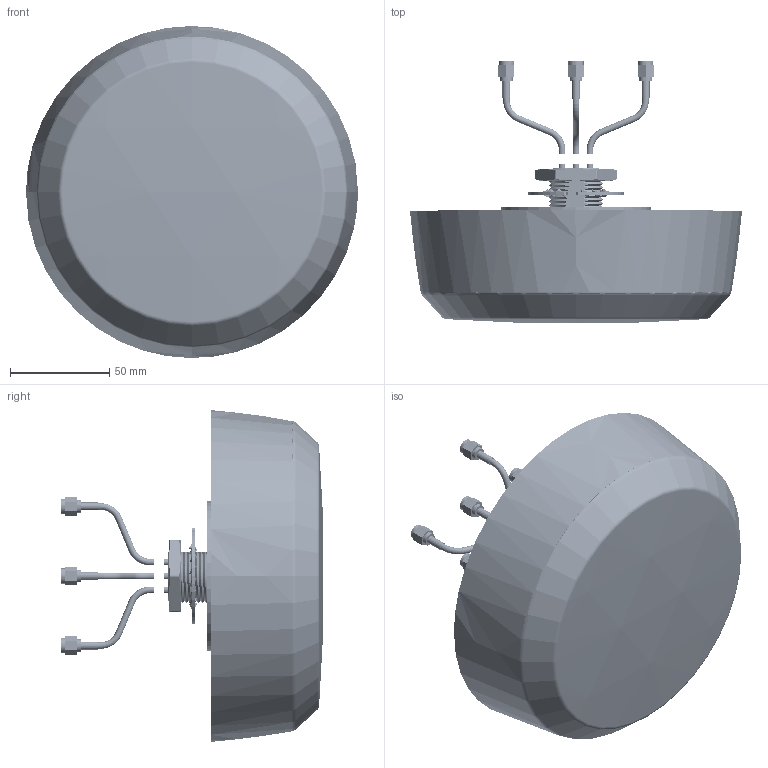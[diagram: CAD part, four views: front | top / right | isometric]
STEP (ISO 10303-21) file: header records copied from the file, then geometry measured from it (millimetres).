
FILE_DESCRIPTION (( 'STEP AP214' ), '1' );
FILE_NAME ('YEMN926J1A-0RELHA1B.STEP', '2024-08-01T08:54:30', ( '' ), ( '' ), 'SwSTEP 2.0', 'SolidWorks 2024', '' );
FILE_SCHEMA (( 'AUTOMOTIVE_DESIGN' ));
Length unit declared in the file: millimetre
Products named in the file (1): YEMN926J1A-0RELHA1B
Bounding box: 167 x 132.17 x 166.99 mm (x, y, z)
Volume: 268642.5 mm3; surface area: 234612.5 mm2
Topology: 35 solids, 45 shells, 4238 faces, 10991 edges, 7018 vertices
Faces by surface type: plane 1284, cone 962, cylinder 748, bspline 728, torus 422, sphere 94
Entity records: 220429 total; most frequent: CARTESIAN_POINT 109821, ORIENTED_EDGE 21922, DIRECTION 16948, EDGE_CURVE 10961, VERTEX_POINT 6998, AXIS2_PLACEMENT_3D 6848, EDGE_LOOP 4495, B_SPLINE_CURVE_WITH_KNOTS 4234
